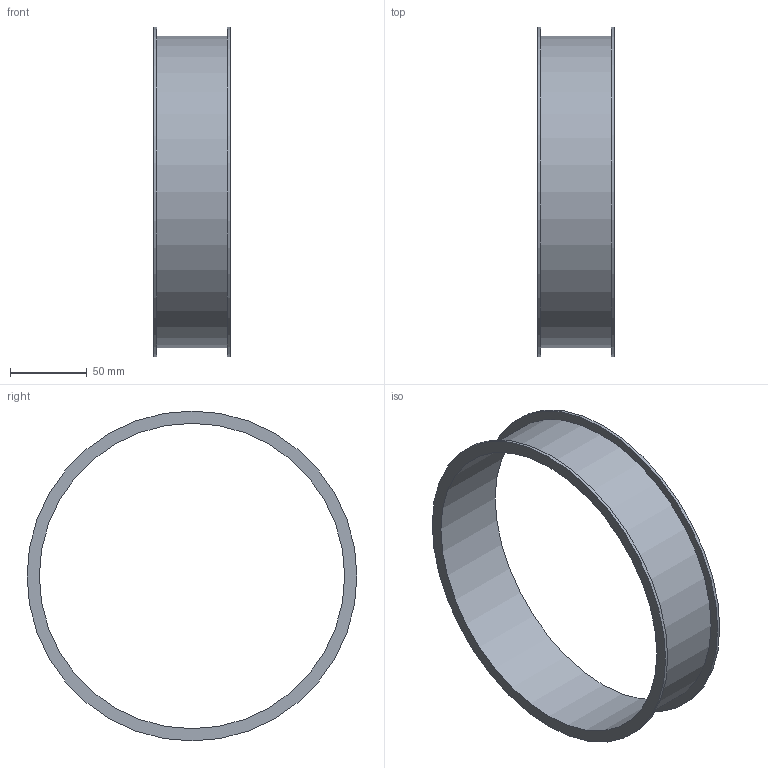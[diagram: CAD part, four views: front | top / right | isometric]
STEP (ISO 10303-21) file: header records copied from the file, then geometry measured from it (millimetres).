
FILE_DESCRIPTION((''),'2;1');
FILE_NAME('U:\Wolfgang\Marcel-3D\fertig\Kapitel 1\2021005.stp','2010-05-31T11:15:44',('TK2'),(''),'Autodesk Inventor 2010','Autodesk Inventor 2010','');
FILE_SCHEMA(('AUTOMOTIVE_DESIGN { 1 0 10303 214 1 1 1 1 }'));
Length unit declared in the file: millimetre
Products named in the file (1): 2021005
Bounding box: 50 x 215 x 215 mm (x, y, z)
Volume: 78904.2 mm3; surface area: 81580.9 mm2
Topology: 1 solids, 1 shells, 8 faces, 12 edges, 8 vertices
Faces by surface type: cylinder 4, plane 4
Full cylindrical faces by diameter (mm): 199 x1, 203 x1, 215 x2
Entity records: 194 total; most frequent: DIRECTION 34, CARTESIAN_POINT 25, AXIS2_PLACEMENT_3D 17, ORIENTED_EDGE 16, EDGE_LOOP 16, VERTEX_POINT 8, CIRCLE 8, EDGE_CURVE 8
